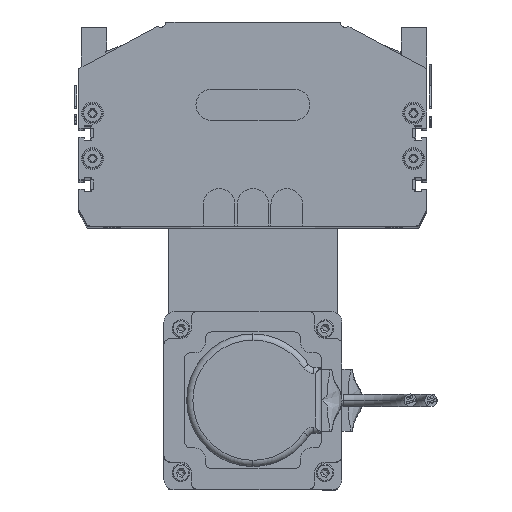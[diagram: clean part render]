
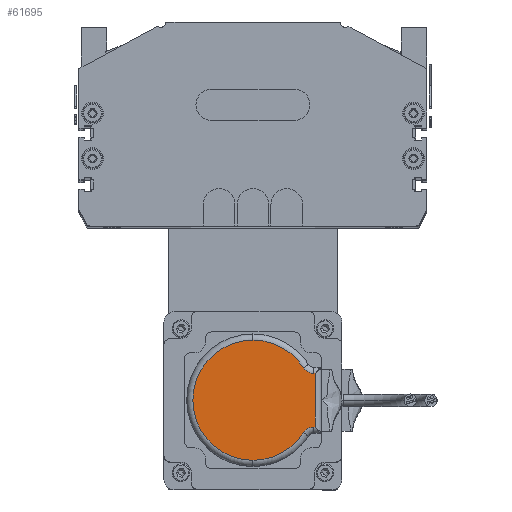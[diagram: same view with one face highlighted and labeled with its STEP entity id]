
A CAD part, top view. The second image highlights one B-rep face of the part: STEP entity #61695.
In plain terms, the highlighted planar face has unit normal (0, 0, 1).
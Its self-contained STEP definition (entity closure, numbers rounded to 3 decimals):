
#722 = AXIS2_PLACEMENT_3D ( 'NONE', #768, #767, #766 ) ;
#766 = DIRECTION ( 'NONE',  ( 1., 0., 0. ) ) ;
#767 = DIRECTION ( 'NONE',  ( 0., 0., 1. ) ) ;
#768 = CARTESIAN_POINT ( 'NONE',  ( 33., 33., 26. ) ) ;
#790 = CIRCLE ( 'NONE', #722, 29. ) ;
#3817 = CIRCLE ( 'NONE', #3873, 6. ) ;
#3819 = PLANE ( 'NONE',  #3938 ) ;
#3870 = DIRECTION ( 'NONE',  ( 1., 0., 0. ) ) ;
#3871 = DIRECTION ( 'NONE',  ( 0., 0., 1. ) ) ;
#3872 = CARTESIAN_POINT ( 'NONE',  ( 14., 62.394, 26. ) ) ;
#3873 = AXIS2_PLACEMENT_3D ( 'NONE', #3872, #3871, #3870 ) ;
#3875 = FACE_OUTER_BOUND ( 'NONE', #61731, .T. ) ;
#3933 = DIRECTION ( 'NONE',  ( 1., 0., 0. ) ) ;
#3934 = DIRECTION ( 'NONE',  ( 0., 0., 1. ) ) ;
#3938 = AXIS2_PLACEMENT_3D ( 'NONE', #3943, #3934, #3933 ) ;
#3943 = CARTESIAN_POINT ( 'NONE',  ( 33., 33., 26. ) ) ;
#3961 = CARTESIAN_POINT ( 'NONE',  ( 20., 62.394, 26. ) ) ;
#6406 = VERTEX_POINT ( 'NONE', #39028 ) ;
#6573 = VERTEX_POINT ( 'NONE', #39822 ) ;
#6589 = EDGE_CURVE ( 'NONE', #6590, #6573, #39983, .T. ) ;
#6590 = VERTEX_POINT ( 'NONE', #39984 ) ;
#27830 = DIRECTION ( 'NONE',  ( -1., 0., 0. ) ) ;
#27831 = VECTOR ( 'NONE', #27830, 1000. ) ;
#27832 = CARTESIAN_POINT ( 'NONE',  ( 17.5, 63., 26. ) ) ;
#27833 = LINE ( 'NONE', #27832, #27831 ) ;
#28402 = DIRECTION ( 'NONE',  ( 0., -1., 0. ) ) ;
#28403 = VECTOR ( 'NONE', #28402, 1000. ) ;
#28404 = CARTESIAN_POINT ( 'NONE',  ( 20., 33., 26. ) ) ;
#28427 = LINE ( 'NONE', #28404, #28403 ) ;
#28814 = CARTESIAN_POINT ( 'NONE',  ( 46., 62.394, 26. ) ) ;
#28953 = AXIS2_PLACEMENT_3D ( 'NONE', #29016, #29011, #29010 ) ;
#28958 = CARTESIAN_POINT ( 'NONE',  ( 20., 63., 26. ) ) ;
#28971 = CIRCLE ( 'NONE', #28977, 6. ) ;
#28977 = AXIS2_PLACEMENT_3D ( 'NONE', #28992, #29014, #29013 ) ;
#28992 = CARTESIAN_POINT ( 'NONE',  ( 52., 62.394, 26. ) ) ;
#29010 = DIRECTION ( 'NONE',  ( 1., 0., 0. ) ) ;
#29011 = DIRECTION ( 'NONE',  ( 0., 0., 1. ) ) ;
#29013 = DIRECTION ( 'NONE',  ( 1., 0., 0. ) ) ;
#29014 = DIRECTION ( 'NONE',  ( 0., 0., 1. ) ) ;
#29016 = CARTESIAN_POINT ( 'NONE',  ( 33., 33., 26. ) ) ;
#29021 = CIRCLE ( 'NONE', #28953, 29. ) ;
#30211 = CARTESIAN_POINT ( 'NONE',  ( 46., 33., 26. ) ) ;
#30213 = LINE ( 'NONE', #30211, #30330 ) ;
#30329 = DIRECTION ( 'NONE',  ( 0., 1., 0. ) ) ;
#30330 = VECTOR ( 'NONE', #30329, 1000. ) ;
#30342 = CARTESIAN_POINT ( 'NONE',  ( 48.743, 57.355, 26. ) ) ;
#30412 = CARTESIAN_POINT ( 'NONE',  ( 46., 63., 26. ) ) ;
#39028 = CARTESIAN_POINT ( 'NONE',  ( 62., 33., 26. ) ) ;
#39822 = CARTESIAN_POINT ( 'NONE',  ( 4., 33., 26. ) ) ;
#39982 = AXIS2_PLACEMENT_3D ( 'NONE', #40051, #40050, #40049 ) ;
#39983 = CIRCLE ( 'NONE', #39982, 29. ) ;
#39984 = CARTESIAN_POINT ( 'NONE',  ( 17.257, 57.355, 26. ) ) ;
#40049 = DIRECTION ( 'NONE',  ( 1., 0., 0. ) ) ;
#40050 = DIRECTION ( 'NONE',  ( 0., 0., 1. ) ) ;
#40051 = CARTESIAN_POINT ( 'NONE',  ( 33., 33., 26. ) ) ;
#61084 = EDGE_CURVE ( 'NONE', #6573, #6406, #790, .T. ) ;
#61604 = ORIENTED_EDGE ( 'NONE', *, *, #6589, .T. ) ;
#61690 = EDGE_CURVE ( 'NONE', #6590, #61707, #3817, .T. ) ;
#61695 = ADVANCED_FACE ( 'NONE', ( #3875 ), #3819, .T. ) ;
#61698 = ORIENTED_EDGE ( 'NONE', *, *, #61690, .F. ) ;
#61707 = VERTEX_POINT ( 'NONE', #3961 ) ;
#61731 = EDGE_LOOP ( 'NONE', ( #61698, #61604, #61950, #61773, #61771, #61966, #61986, #61985 ) ) ;
#61770 = EDGE_CURVE ( 'NONE', #61979, #61925, #27833, .T. ) ;
#61771 = ORIENTED_EDGE ( 'NONE', *, *, #61923, .F. ) ;
#61773 = ORIENTED_EDGE ( 'NONE', *, *, #61924, .T. ) ;
#61842 = EDGE_CURVE ( 'NONE', #61925, #61707, #28427, .T. ) ;
#61898 = VERTEX_POINT ( 'NONE', #28814 ) ;
#61923 = EDGE_CURVE ( 'NONE', #61898, #61970, #28971, .T. ) ;
#61924 = EDGE_CURVE ( 'NONE', #6406, #61970, #29021, .T. ) ;
#61925 = VERTEX_POINT ( 'NONE', #28958 ) ;
#61950 = ORIENTED_EDGE ( 'NONE', *, *, #61084, .T. ) ;
#61960 = EDGE_CURVE ( 'NONE', #61898, #61979, #30213, .T. ) ;
#61966 = ORIENTED_EDGE ( 'NONE', *, *, #61960, .T. ) ;
#61970 = VERTEX_POINT ( 'NONE', #30342 ) ;
#61979 = VERTEX_POINT ( 'NONE', #30412 ) ;
#61985 = ORIENTED_EDGE ( 'NONE', *, *, #61842, .T. ) ;
#61986 = ORIENTED_EDGE ( 'NONE', *, *, #61770, .T. ) ;
